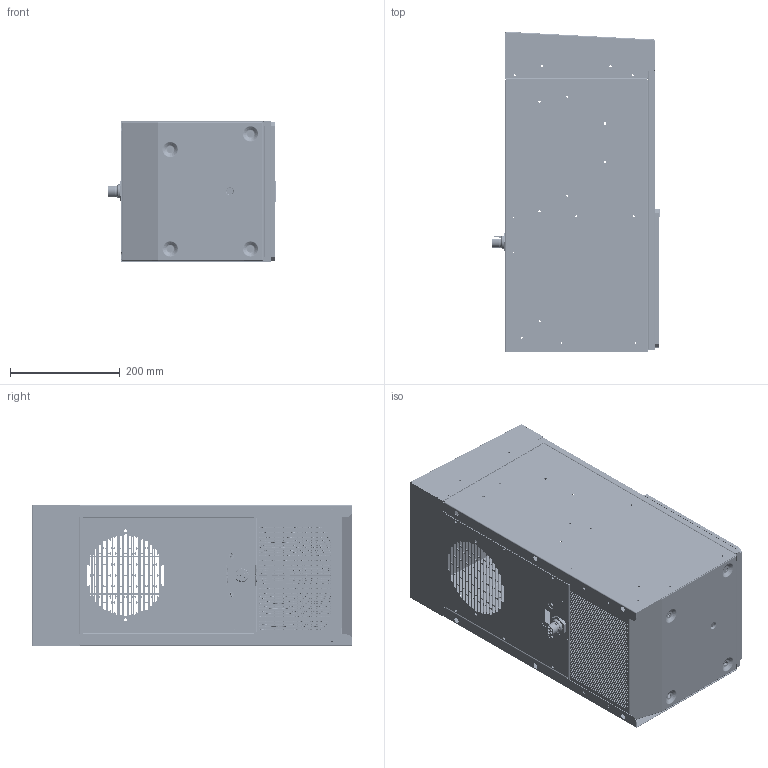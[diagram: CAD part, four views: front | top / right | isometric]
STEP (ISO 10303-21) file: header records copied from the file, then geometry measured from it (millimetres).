
FILE_DESCRIPTION (( 'STEP AP203' ), '1' );
FILE_NAME ('DTS 3041-61 460V.STEP', '2017-11-29T12:57:24', ( '' ), ( '' ), 'SwSTEP 2.0', 'SolidWorks 2015', '' );
FILE_SCHEMA (( 'CONFIG_CONTROL_DESIGN' ));
Length unit declared in the file: millimetre
Products named in the file (15): US-30165-011_005070401; 30203-012_802004001; 30165-040_005071401; 30203-017_802004002; DTS 3041-61 460V; 30203-043_802000233; 885000012; 885000013; 30203-016_802004002; 015080031; 30203-035_813000000; 30203-041_802000227; 30203-044_802000235; 30203-018_802005002; 825500030_825500030
Assembly tree (14 placements, depth 2):
  DTS 3041-61 460V
    30203-016_802004002
    30203-035_813000000
    30203-044_802000235
    825500030_825500030
    30203-012_802004001
    30203-017_802004002
    30203-043_802000233
    885000012
    885000013
    015080031
    30203-041_802000227
    30203-018_802005002
    US-30165-011_005070401
    30165-040_005071401
Bounding box: 304.54 x 583.24 x 259.69 mm (x, y, z)
Volume: 1726604.8 mm3; surface area: 2352366.8 mm2
Topology: 20 solids, 21 shells, 8519 faces, 23740 edges, 15496 vertices
Faces by surface type: plane 4007, bspline 2474, cylinder 1794, torus 214, cone 22, sphere 8
Entity records: 402858 total; most frequent: CARTESIAN_POINT 195885, ORIENTED_EDGE 47464, DIRECTION 33488, EDGE_CURVE 23732, VERTEX_POINT 15496, VECTOR 13980, LINE 13980, EDGE_LOOP 10382
